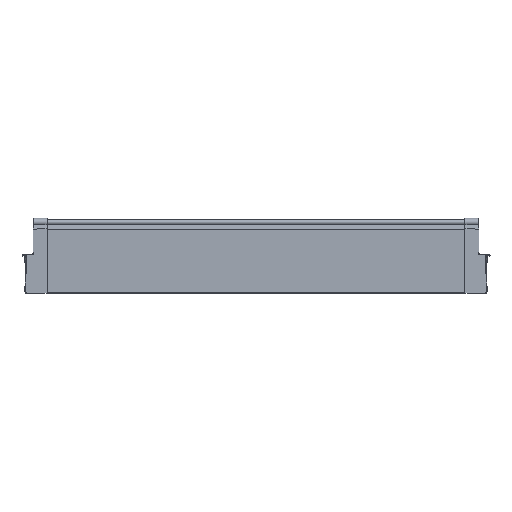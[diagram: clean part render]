
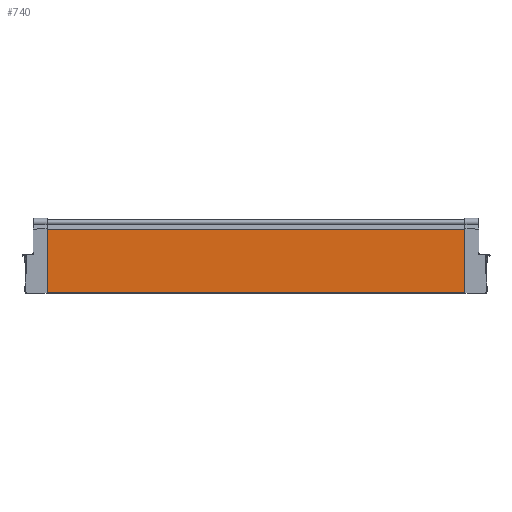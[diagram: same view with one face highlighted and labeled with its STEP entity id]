
A CAD part, top view. The second image highlights one B-rep face of the part: STEP entity #740.
In plain terms, the highlighted planar face has unit normal (0, 0, 1).
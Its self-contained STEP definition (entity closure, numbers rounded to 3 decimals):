
#717 = ORIENTED_EDGE ( 'NONE', *, *, #2214, .F. ) ;
#718 = ORIENTED_EDGE ( 'NONE', *, *, #739, .T. ) ;
#719 = ORIENTED_EDGE ( 'NONE', *, *, #720, .T. ) ;
#720 = EDGE_CURVE ( 'NONE', #737, #721, #5434, .T. ) ;
#721 = VERTEX_POINT ( 'NONE', #5430 ) ;
#722 = ORIENTED_EDGE ( 'NONE', *, *, #723, .F. ) ;
#723 = EDGE_CURVE ( 'NONE', #2215, #721, #5429, .T. ) ;
#737 = VERTEX_POINT ( 'NONE', #5459 ) ;
#739 = EDGE_CURVE ( 'NONE', #2212, #737, #5458, .T. ) ;
#740 = ADVANCED_FACE ( 'NONE', ( #5454 ), #5452, .F. ) ;
#741 = EDGE_LOOP ( 'NONE', ( #717, #718, #719, #722 ) ) ;
#2212 = VERTEX_POINT ( 'NONE', #10407 ) ;
#2214 = EDGE_CURVE ( 'NONE', #2212, #2215, #10459, .T. ) ;
#2215 = VERTEX_POINT ( 'NONE', #10455 ) ;
#5426 = DIRECTION ( 'NONE',  ( -1., 0., 0. ) ) ;
#5427 = VECTOR ( 'NONE', #5426, 1000. ) ;
#5428 = CARTESIAN_POINT ( 'NONE',  ( 89.157, -64.725, 4.05 ) ) ;
#5429 = LINE ( 'NONE', #5428, #5427 ) ;
#5430 = CARTESIAN_POINT ( 'NONE',  ( -768.3, -64.725, 4.05 ) ) ;
#5431 = DIRECTION ( 'NONE',  ( 0., -1., 0. ) ) ;
#5432 = VECTOR ( 'NONE', #5431, 1000. ) ;
#5433 = CARTESIAN_POINT ( 'NONE',  ( -768.3, 45.248, 4.05 ) ) ;
#5434 = LINE ( 'NONE', #5433, #5432 ) ;
#5448 = DIRECTION ( 'NONE',  ( 0., 1., 0. ) ) ;
#5449 = DIRECTION ( 'NONE',  ( 0., 0., -1. ) ) ;
#5450 = CARTESIAN_POINT ( 'NONE',  ( 89.157, 45.248, 4.05 ) ) ;
#5451 = AXIS2_PLACEMENT_3D ( 'NONE', #5450, #5449, #5448 ) ;
#5452 = PLANE ( 'NONE',  #5451 ) ;
#5454 = FACE_OUTER_BOUND ( 'NONE', #741, .T. ) ;
#5455 = DIRECTION ( 'NONE',  ( -1., 0., 0. ) ) ;
#5456 = VECTOR ( 'NONE', #5455, 1000. ) ;
#5457 = CARTESIAN_POINT ( 'NONE',  ( 89.157, 45.248, 4.05 ) ) ;
#5458 = LINE ( 'NONE', #5457, #5456 ) ;
#5459 = CARTESIAN_POINT ( 'NONE',  ( -768.3, 45.248, 4.05 ) ) ;
#10407 = CARTESIAN_POINT ( 'NONE',  ( -38.8, 45.248, 4.05 ) ) ;
#10455 = CARTESIAN_POINT ( 'NONE',  ( -38.8, -64.725, 4.05 ) ) ;
#10456 = DIRECTION ( 'NONE',  ( 0., -1., 0. ) ) ;
#10457 = VECTOR ( 'NONE', #10456, 1000. ) ;
#10458 = CARTESIAN_POINT ( 'NONE',  ( -38.8, 45.248, 4.05 ) ) ;
#10459 = LINE ( 'NONE', #10458, #10457 ) ;
